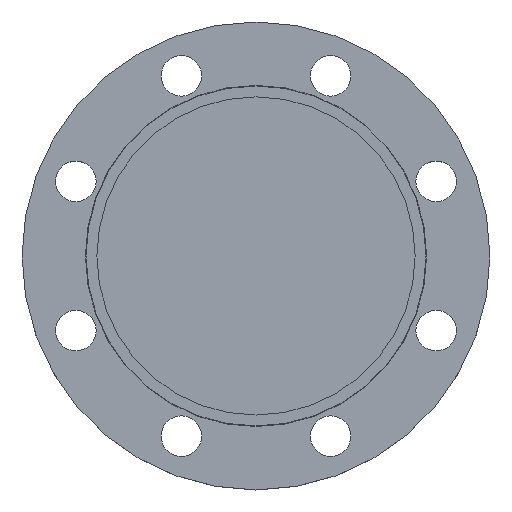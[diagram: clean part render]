
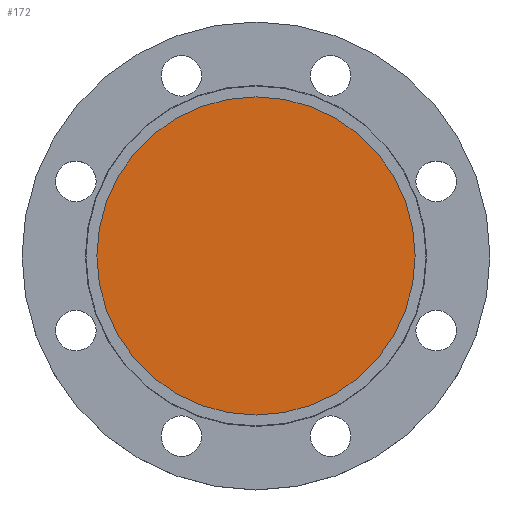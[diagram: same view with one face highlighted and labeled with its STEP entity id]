
A CAD part, top view. The second image highlights one B-rep face of the part: STEP entity #172.
In plain terms, the highlighted planar face has unit normal (0, 0, 1).
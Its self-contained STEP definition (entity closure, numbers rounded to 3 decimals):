
#6 = AXIS2_PLACEMENT_3D ( 'NONE', #184, #486, #740 ) ;
#57 = CARTESIAN_POINT ( 'NONE',  ( 0., 0., -4.5 ) ) ;
#67 = DIRECTION ( 'NONE',  ( 1., 0., 0. ) ) ;
#131 = EDGE_CURVE ( 'NONE', #227, #164, #390, .T. ) ;
#139 = PLANE ( 'NONE',  #221 ) ;
#164 = VERTEX_POINT ( 'NONE', #507 ) ;
#172 = ADVANCED_FACE ( 'NONE', ( #756 ), #139, .T. ) ;
#184 = CARTESIAN_POINT ( 'NONE',  ( 0., 0., -4.5 ) ) ;
#211 = ORIENTED_EDGE ( 'NONE', *, *, #568, .F. ) ;
#215 = ORIENTED_EDGE ( 'NONE', *, *, #131, .F. ) ;
#221 = AXIS2_PLACEMENT_3D ( 'NONE', #442, #702, #67 ) ;
#227 = VERTEX_POINT ( 'NONE', #510 ) ;
#365 = DIRECTION ( 'NONE',  ( 0., 0., -1. ) ) ;
#390 = CIRCLE ( 'NONE', #405, 102. ) ;
#405 = AXIS2_PLACEMENT_3D ( 'NONE', #57, #365, #633 ) ;
#442 = CARTESIAN_POINT ( 'NONE',  ( 102., 0., -4.5 ) ) ;
#486 = DIRECTION ( 'NONE',  ( 0., 0., -1. ) ) ;
#507 = CARTESIAN_POINT ( 'NONE',  ( -102., 0., -4.5 ) ) ;
#510 = CARTESIAN_POINT ( 'NONE',  ( 102., 0., -4.5 ) ) ;
#568 = EDGE_CURVE ( 'NONE', #164, #227, #584, .T. ) ;
#584 = CIRCLE ( 'NONE', #6, 102. ) ;
#633 = DIRECTION ( 'NONE',  ( -1., 0., 0. ) ) ;
#668 = EDGE_LOOP ( 'NONE', ( #211, #215 ) ) ;
#702 = DIRECTION ( 'NONE',  ( 0., 0., 1. ) ) ;
#740 = DIRECTION ( 'NONE',  ( -1., 0., 0. ) ) ;
#756 = FACE_OUTER_BOUND ( 'NONE', #668, .T. ) ;
